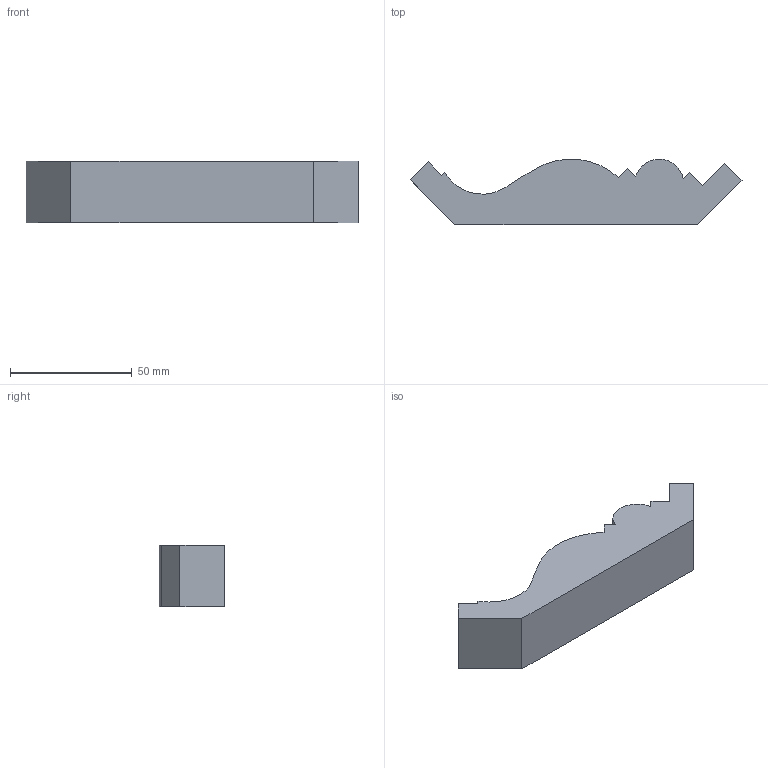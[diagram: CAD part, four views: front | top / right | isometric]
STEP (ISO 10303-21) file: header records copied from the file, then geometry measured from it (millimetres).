
FILE_DESCRIPTION (( 'STEP AP203' ), '1' );
FILE_NAME ('AB501FJ.STEP', '2023-08-25T14:18:36', ( '' ), ( '' ), 'SwSTEP 2.0', 'SolidWorks 2020', '' );
FILE_SCHEMA (( 'CONFIG_CONTROL_DESIGN' ));
Length unit declared in the file: inch
Products named in the file (1): AB501FJ
Bounding box: 136.53 x 26.96 x 25.4 mm (x, y, z)
Volume: 65463.1 mm3; surface area: 13354.7 mm2
Topology: 1 solids, 1 shells, 19 faces, 51 edges, 34 vertices
Faces by surface type: plane 14, cylinder 5
Entity records: 674 total; most frequent: CARTESIAN_POINT 105, ORIENTED_EDGE 102, DIRECTION 101, EDGE_CURVE 51, LINE 41, VECTOR 41, VERTEX_POINT 34, AXIS2_PLACEMENT_3D 30
